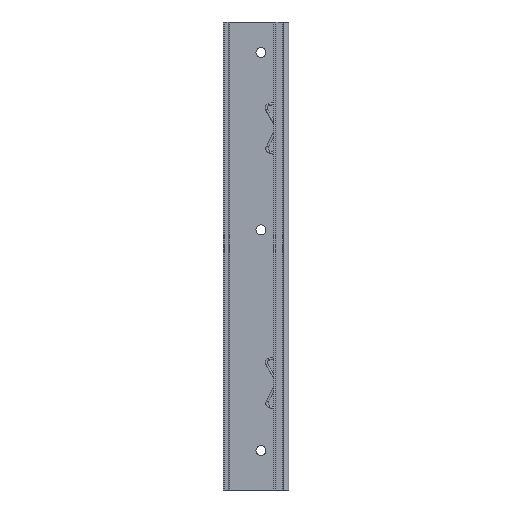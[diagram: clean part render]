
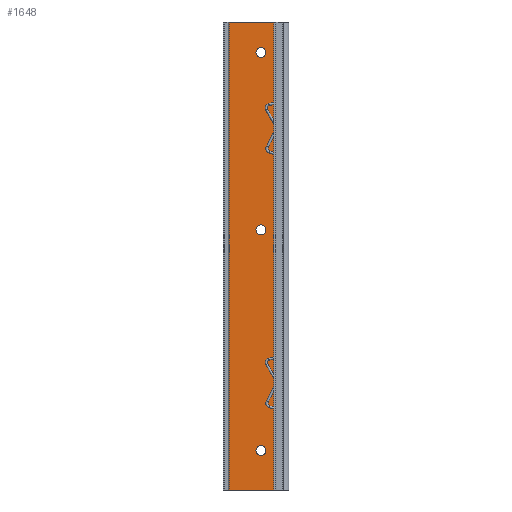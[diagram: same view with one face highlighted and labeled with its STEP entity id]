
A CAD part, left-side view. The second image highlights one B-rep face of the part: STEP entity #1648.
In plain terms, the highlighted planar face has unit normal (-1, 0, 0).
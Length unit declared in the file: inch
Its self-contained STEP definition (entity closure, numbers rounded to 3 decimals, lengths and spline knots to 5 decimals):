
#26=DIRECTION('',(0.,1.,0.));
#27=VECTOR('',#26,1.3025);
#28=CARTESIAN_POINT('',(-0.08,0.455,0.));
#29=LINE('',#28,#27);
#132=DIRECTION('',(0.,-1.,0.));
#133=VECTOR('',#132,1.3025);
#134=CARTESIAN_POINT('',(-0.08,1.7575,13.78));
#135=LINE('',#134,#133);
#215=DIRECTION('',(0.,0.,1.));
#216=VECTOR('',#215,13.78);
#217=CARTESIAN_POINT('',(-0.08,1.7575,0.));
#218=LINE('',#217,#216);
#219=CARTESIAN_POINT('',(-0.08,0.828,12.881));
#220=DIRECTION('',(1.,0.,0.));
#221=DIRECTION('',(0.,0.,-1.));
#222=AXIS2_PLACEMENT_3D('',#219,#220,#221);
#224=CARTESIAN_POINT('',(-0.08,0.828,12.881));
#225=DIRECTION('',(1.,0.,0.));
#226=DIRECTION('',(0.,0.,1.));
#227=AXIS2_PLACEMENT_3D('',#224,#225,#226);
#229=CARTESIAN_POINT('',(-0.08,0.828,7.66));
#230=DIRECTION('',(1.,0.,0.));
#231=DIRECTION('',(0.,0.,-1.));
#232=AXIS2_PLACEMENT_3D('',#229,#230,#231);
#234=CARTESIAN_POINT('',(-0.08,0.828,7.66));
#235=DIRECTION('',(1.,0.,0.));
#236=DIRECTION('',(0.,0.,1.));
#237=AXIS2_PLACEMENT_3D('',#234,#235,#236);
#239=CARTESIAN_POINT('',(-0.08,0.828,1.16));
#240=DIRECTION('',(1.,0.,0.));
#241=DIRECTION('',(0.,0.,-1.));
#242=AXIS2_PLACEMENT_3D('',#239,#240,#241);
#244=CARTESIAN_POINT('',(-0.08,0.828,1.16));
#245=DIRECTION('',(1.,0.,0.));
#246=DIRECTION('',(0.,0.,1.));
#247=AXIS2_PLACEMENT_3D('',#244,#245,#246);
#269=DIRECTION('',(0.,0.,1.));
#270=VECTOR('',#269,13.78);
#271=CARTESIAN_POINT('',(-0.08,0.455,0.));
#272=LINE('',#271,#270);
#1231=CARTESIAN_POINT('',(-0.08,0.455,0.));
#1232=VERTEX_POINT('',#1231);
#1237=CARTESIAN_POINT('',(-0.08,1.7575,0.));
#1239=VERTEX_POINT('',#1237);
#1267=CARTESIAN_POINT('',(-0.08,1.7575,13.78));
#1268=VERTEX_POINT('',#1267);
#1269=CARTESIAN_POINT('',(-0.08,0.455,13.78));
#1270=VERTEX_POINT('',#1269);
#1301=CARTESIAN_POINT('',(-0.08,0.828,12.736));
#1302=CARTESIAN_POINT('',(-0.08,0.828,13.026));
#1303=VERTEX_POINT('',#1301);
#1304=VERTEX_POINT('',#1302);
#1417=CARTESIAN_POINT('',(-0.08,0.828,7.515));
#1418=CARTESIAN_POINT('',(-0.08,0.828,7.805));
#1419=VERTEX_POINT('',#1417);
#1420=VERTEX_POINT('',#1418);
#1421=CARTESIAN_POINT('',(-0.08,0.828,1.015));
#1422=CARTESIAN_POINT('',(-0.08,0.828,1.305));
#1423=VERTEX_POINT('',#1421);
#1424=VERTEX_POINT('',#1422);
#1618=CARTESIAN_POINT('',(-0.08,0.455,7.87));
#1619=DIRECTION('',(1.,0.,0.));
#1620=DIRECTION('',(0.,1.,0.));
#1621=AXIS2_PLACEMENT_3D('',#1618,#1619,#1620);
#1622=PLANE('',#1621);
#1624=ORIENTED_EDGE('',*,*,#1623,.T.);
#1625=ORIENTED_EDGE('',*,*,#1544,.T.);
#1627=ORIENTED_EDGE('',*,*,#1626,.F.);
#1628=ORIENTED_EDGE('',*,*,#1462,.T.);
#1629=EDGE_LOOP('',(#1624,#1625,#1627,#1628));
#1630=FACE_OUTER_BOUND('',#1629,.F.);
#1631=ORIENTED_EDGE('',*,*,#1608,.F.);
#1633=ORIENTED_EDGE('',*,*,#1632,.F.);
#1634=EDGE_LOOP('',(#1631,#1633));
#1635=FACE_BOUND('',#1634,.F.);
#1637=ORIENTED_EDGE('',*,*,#1636,.F.);
#1639=ORIENTED_EDGE('',*,*,#1638,.F.);
#1640=EDGE_LOOP('',(#1637,#1639));
#1641=FACE_BOUND('',#1640,.F.);
#1643=ORIENTED_EDGE('',*,*,#1642,.F.);
#1645=ORIENTED_EDGE('',*,*,#1644,.F.);
#1646=EDGE_LOOP('',(#1643,#1645));
#1647=FACE_BOUND('',#1646,.F.);
#1648=ADVANCED_FACE('',(#1630,#1635,#1641,#1647),#1622,.F.);
#223=CIRCLE('',#222,0.145);
#228=CIRCLE('',#227,0.145);
#233=CIRCLE('',#232,0.145);
#238=CIRCLE('',#237,0.145);
#243=CIRCLE('',#242,0.145);
#248=CIRCLE('',#247,0.145);
#1462=EDGE_CURVE('',#1232,#1239,#29,.T.);
#1544=EDGE_CURVE('',#1268,#1270,#135,.T.);
#1608=EDGE_CURVE('',#1303,#1304,#223,.T.);
#1623=EDGE_CURVE('',#1239,#1268,#218,.T.);
#1626=EDGE_CURVE('',#1232,#1270,#272,.T.);
#1632=EDGE_CURVE('',#1304,#1303,#228,.T.);
#1636=EDGE_CURVE('',#1419,#1420,#233,.T.);
#1638=EDGE_CURVE('',#1420,#1419,#238,.T.);
#1642=EDGE_CURVE('',#1423,#1424,#243,.T.);
#1644=EDGE_CURVE('',#1424,#1423,#248,.T.);
